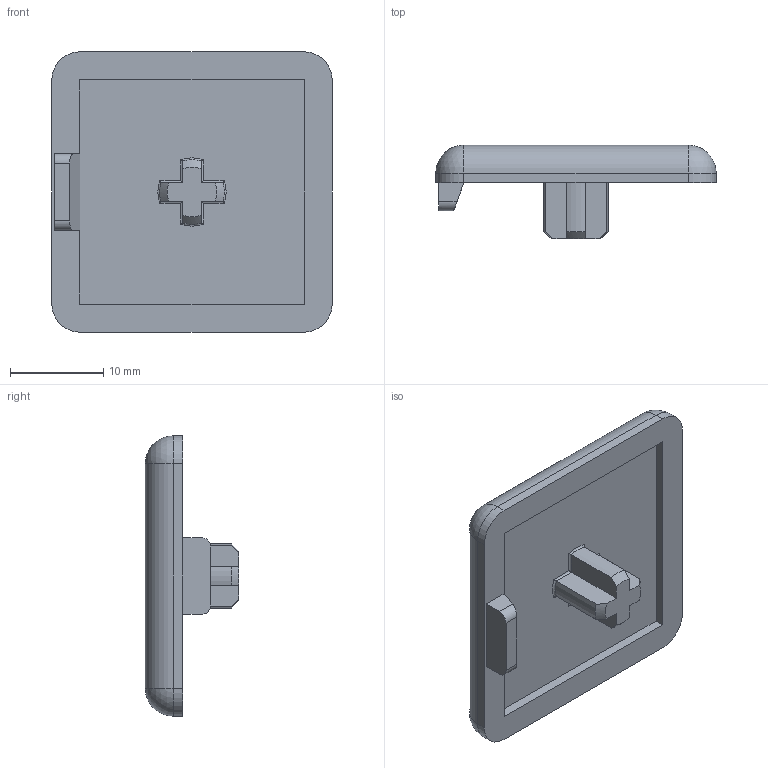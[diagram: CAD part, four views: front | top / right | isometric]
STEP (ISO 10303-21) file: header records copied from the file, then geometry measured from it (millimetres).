
FILE_DESCRIPTION(/* description */ ('STEP AP203'),/* implementation_level */ '2;1');
FILE_NAME(/* name */ '091062S01',/* time_stamp */ '2023-06-28T12:13:14+02:00',/* author */ ('License CC BY-ND 4.0'),/* organization */ ('CADENAS'),/* preprocessor_version */ 'ST-DEVELOPER v19.3',/* originating_system */ 'PARTsolutions',/* authorisation */ ' ');
FILE_SCHEMA (('CONFIG_CONTROL_DESIGN'));
Length unit declared in the file: millimetre
Products named in the file (1): 091062S01
Bounding box: 30 x 10 x 30 mm (x, y, z)
Volume: 2992 mm3; surface area: 2417.9 mm2
Topology: 1 solids, 1 shells, 59 faces, 143 edges, 84 vertices
Faces by surface type: plane 25, cylinder 22, sphere 4, cone 4, torus 4
Entity records: 1711 total; most frequent: CARTESIAN_POINT 331, DIRECTION 283, ORIENTED_EDGE 278, EDGE_CURVE 139, AXIS2_PLACEMENT_3D 100, VERTEX_POINT 84, LINE 83, VECTOR 83
